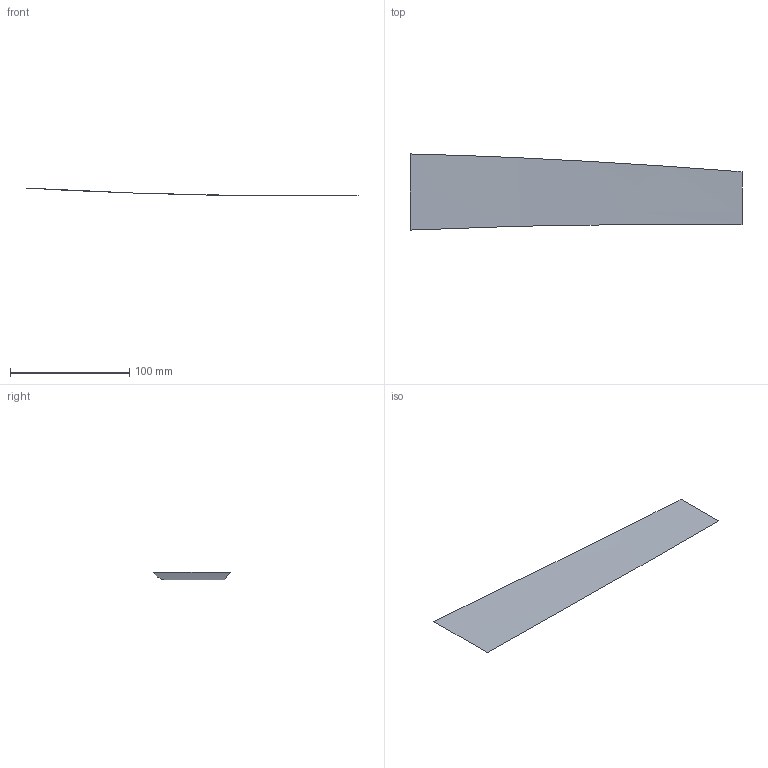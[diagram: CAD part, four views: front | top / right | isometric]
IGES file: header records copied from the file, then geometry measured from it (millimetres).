
Start section: START RECORD GO HERE
Global section: file name: w11.igs; native system: IBM CATIA IGES - CATIA SOLUTIONS V4RELEASE 1.9 REFRESH 01; preprocessor: CATIA SOLUTIONS V4RELEASE 1.9 REFRESH 01; author: cky; date: 990510.133752; units: millimetre
Bounding box: 278.83 x 63.92 x 6.56 mm (x, y, z)
Surface area: 15104.1 mm2 (no closed solid volume)
Topology: 0 solids, 0 shells, 1 faces, 10 edges, 10 vertices
Faces by surface type: extrusion 1
